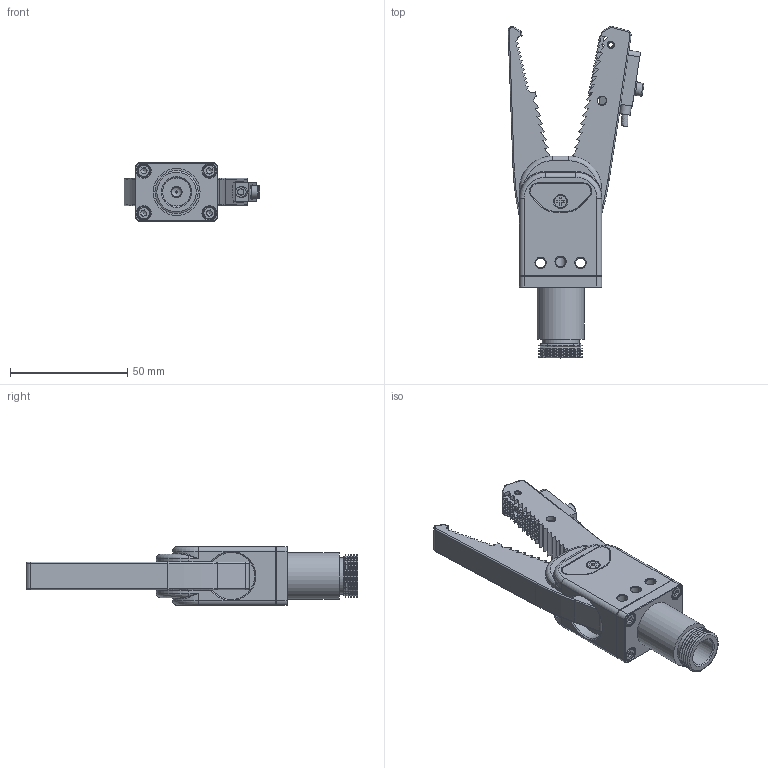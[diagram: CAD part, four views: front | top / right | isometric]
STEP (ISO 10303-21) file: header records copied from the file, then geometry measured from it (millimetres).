
FILE_DESCRIPTION(/* description */ (''),/* implementation_level */ '2;1');
FILE_NAME(/* name */ 'GR20D-20-CP.stp',/* time_stamp */ '2023-03-08T15:40:41+08:00',/* author */ (''),/* organization */ (''),/* preprocessor_version */ 'ST-DEVELOPER v16',/* originating_system */ 'SIEMENS PLM Software NX 10.0',/* authorisation */ '');
FILE_SCHEMA (('AUTOMOTIVE_DESIGN { 1 0 10303 214 3 1 1 1 }'));
Length unit declared in the file: millimetre
Products named in the file (1): Admi115498B06j9n
Bounding box: 57.88 x 141.44 x 25 mm (x, y, z)
Volume: 62237.2 mm3; surface area: 25945.1 mm2
Topology: 1 solids, 24 shells, 1216 faces, 3105 edges, 1986 vertices
Faces by surface type: plane 724, cylinder 235, cone 191, revolution 46, bspline 20
Full cylindrical faces by diameter (mm): 0.8 x1, 2.5 x5, 3 x49, 3.1 x1, 3.2 x1, 3.3 x2, 3.4 x4, 4 x5, 4.2 x6, 4.5 x1, 5 x4, 5.2 x1, 5.5 x5, 5.8 x1, 6 x5, 7 x1, 7.8 x2, 12 x1, 15.8 x1, 16.8 x5, 18.4 x5, 20 x1
Entity records: 48612 total; most frequent: CARTESIAN_POINT 12285, DIRECTION 5625, ORIENTED_EDGE 5484, EDGE_CURVE 2742, VERTEX_POINT 1884, LINE 1875, VECTOR 1875, AXIS2_PLACEMENT_3D 1852
